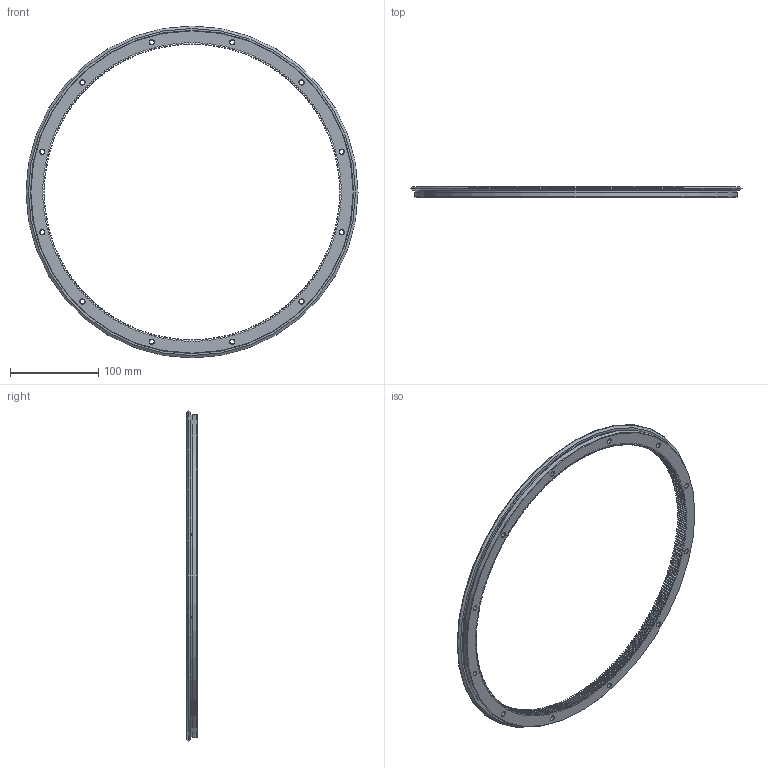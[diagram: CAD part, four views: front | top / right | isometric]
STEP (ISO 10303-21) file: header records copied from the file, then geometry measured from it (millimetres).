
FILE_DESCRIPTION( ( 'STEP AP203' ), '1' );
FILE_NAME( 'p:/temp/worker_73/temp/exporttempdir_2788_287_dlq8i/format_0/RES 376 R360 Q.stp', '2021-08-30T05:09:01', ( 'License CC BY-ND 4.0' ), ( 'CADENAS' ), ' ', 'PARTsolutions', ' ' );
FILE_SCHEMA( ( 'CONFIG_CONTROL_DESIGN' ) );
Length unit declared in the file: millimetre
Products named in the file (1): _RES 376 R360 Q
Bounding box: 376 x 12.25 x 376 mm (x, y, z)
Volume: 214928.9 mm3; surface area: 84031.4 mm2
Topology: 1 solids, 1 shells, 1738 faces, 5151 edges, 3429 vertices
Faces by surface type: cylinder 698, plane 688, cone 351, torus 1
Full cylindrical faces by diameter (mm): 5.5 x12, 10 x12, 364.8 x1, 366 x1
Entity records: 59166 total; most frequent: CARTESIAN_POINT 12294, ORIENTED_EDGE 10218, DIRECTION 9664, EDGE_CURVE 5109, AXIS2_PLACEMENT_3D 3488, VERTEX_POINT 3430, LINE 2688, VECTOR 2688
